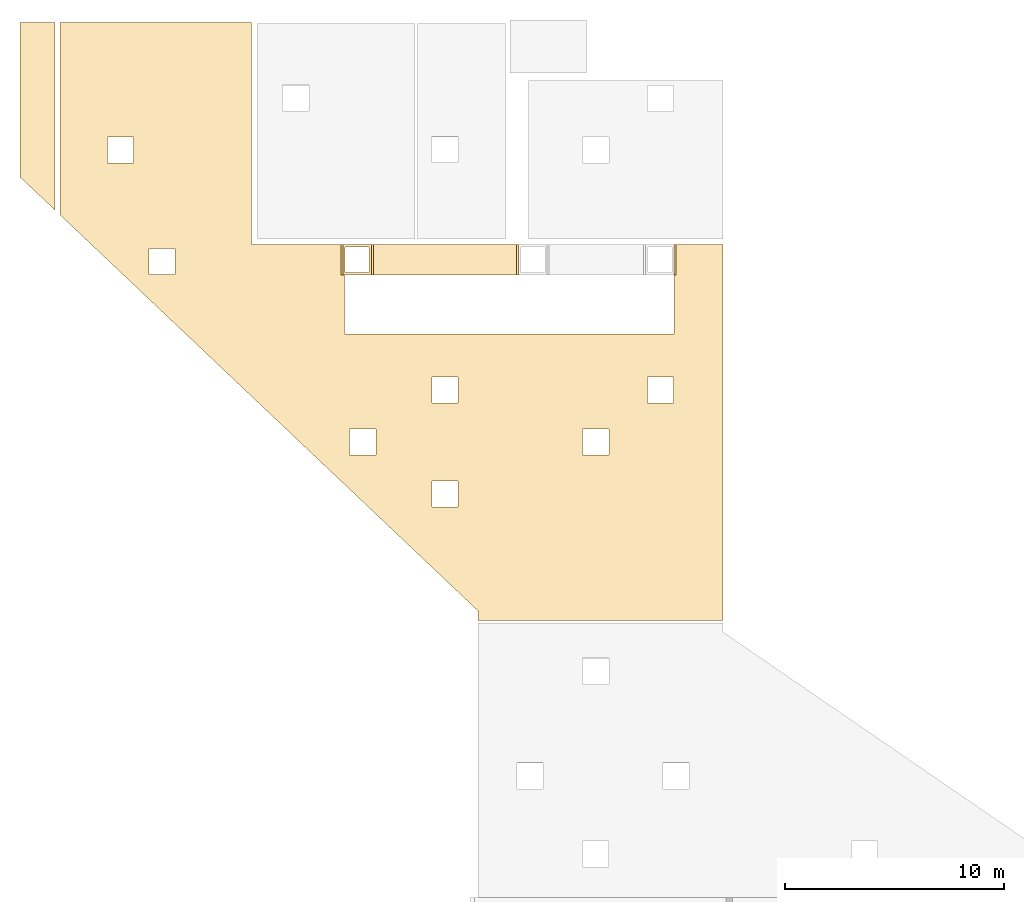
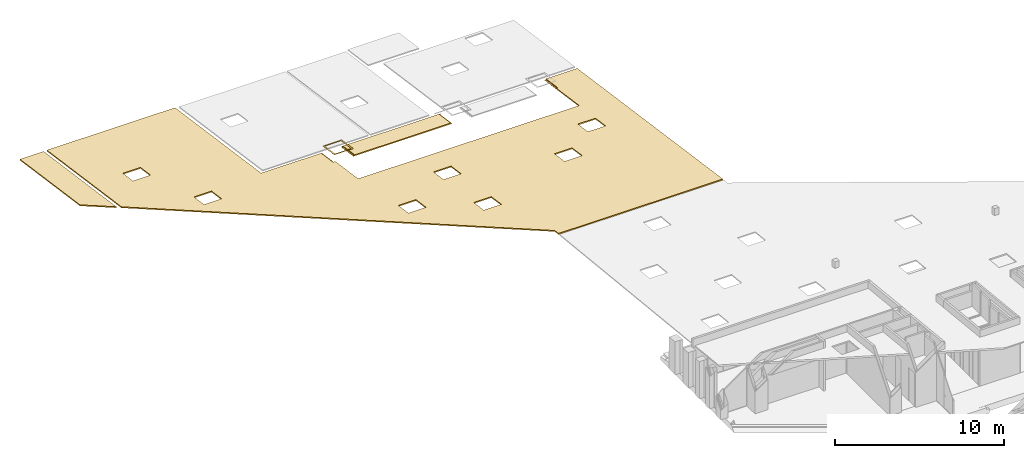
# One storey, part 38 of 43: 4 coverings, 15 openings.
"""IFC2X3 building model written with IfcOpenShell, lengths in millimetres."""

from ifc_helpers import new_model, entity, si_unit, converted_unit, derived_unit, money_unit, direction, frame, origin_with_axes, place, context, subcontext, project, spatial, faceted_brep, material, material_list, type_object, element, save


model = new_model("IFC2X3")

# Units and contexts
model_context = context("Model", 3, precision=0.01, world=origin_with_axes(), true_north=direction((0.0, 1.0)))
body_context = subcontext(model_context, "Body", "Model", "MODEL_VIEW")
ifc_project = project(units=[si_unit("LENGTHUNIT", "METRE", prefix="MILLI"), si_unit("AREAUNIT", "SQUARE_METRE"), si_unit("VOLUMEUNIT", "CUBIC_METRE"), converted_unit("PLANEANGLEUNIT", "DEGREE", entity("IfcPlaneAngleMeasure", 0.0174532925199), si_unit("PLANEANGLEUNIT", "RADIAN"), dimensions=[0, 0, 0, 0, 0, 0, 0]), si_unit("SOLIDANGLEUNIT", "STERADIAN"), money_unit("EUR"), converted_unit("TIMEUNIT", "Year", entity("IfcTimeMeasure", 31556926.0), si_unit("TIMEUNIT", "SECOND"), dimensions=[0, 0, 1, 0, 0, 0, 0]), si_unit("MASSUNIT", "GRAM", prefix="KILO"), si_unit("THERMODYNAMICTEMPERATUREUNIT", "DEGREE_CELSIUS"), si_unit("LUMINOUSINTENSITYUNIT", "LUMEN"), si_unit("ENERGYUNIT", "JOULE", prefix="MEGA"), derived_unit("THERMALCONDUCTANCEUNIT", [(si_unit("POWERUNIT", "WATT"), 1), (si_unit("LENGTHUNIT", "METRE"), -1), (si_unit("THERMODYNAMICTEMPERATUREUNIT", "KELVIN"), -1)]), derived_unit("SPECIFICHEATCAPACITYUNIT", [(si_unit("ENERGYUNIT", "JOULE"), 1), (si_unit("MASSUNIT", "GRAM", prefix="KILO"), -1), (si_unit("THERMODYNAMICTEMPERATUREUNIT", "KELVIN"), -1)]), derived_unit("MASSDENSITYUNIT", [(si_unit("MASSUNIT", "GRAM", prefix="KILO"), 1), (si_unit("VOLUMEUNIT", "CUBIC_METRE"), -1)])], contexts=[model_context])

# Site, building, storey
site_placement = place(None, origin_with_axes())
site = spatial("IfcSite", under=ifc_project, at=site_placement, Name="L.Koidula tn 11b", CompositionType="ELEMENT")
building_placement = place(site_placement, origin_with_axes())
building = spatial("IfcBuilding", under=site, at=building_placement, Name="Rakvere Riigigümnaasium", CompositionType="ELEMENT")
storey_placement = place(building_placement, frame((0.0, 0.0, 6665.0), z_axis=(0.0, 0.0, 1.0), x_axis=(1.0, 0.0, 0.0)))
storey = spatial("IfcBuildingStorey", under=building, at=storey_placement, Name="3.korrus +6,66", CompositionType="ELEMENT", Elevation=6665.0)

# Covering, openings
ifc_material_1 = material(Name="mineraalvill+karkass")
ifc_material_2 = material(Name="SKR-02_Kipsplaat")
ifc_material_list = material_list([ifc_material_1, ifc_material_2])
covering_type_1 = type_object("IfcCoveringType", Name="SA-LV-kips 79", PredefinedType="CEILING")
covering_1_placement = place(storey_placement, frame((16549.8302239, 44100.3882167, 839.388361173), z_axis=(0.0, 0.0, 1.0), x_axis=(1.0, 0.0, 0.0)))
covering_1 = element("IfcCovering", 1, at=covering_1_placement, inside=storey, type_object=covering_type_1, material=ifc_material_list, Name="L-01", PredefinedType="CEILING", context=body_context, shape_type="Brep", body=[
    faceted_brep([(12939.98999, 15850.0664329, -2176.50747019), (12849.1597953, 15850.0664329, -2176.50747019), (12849.1597953, 17230.0664329, -2372.91055466), (12939.98999, 17230.0664329, -2372.91055466), (12939.98999, 17238.7702104, -2374.14928564), (8748.99987109, 17238.7702104, -2374.14928564), (8748.99987109, 27389.9962048, -3818.88268886), (10.0, 27389.9962048, -3818.88268886), (10.0, 18592.4632224, -2566.80833128), (19099.995873, 506.97033096, 7.13847164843), (19099.995873, 51.1218543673, 72.0153171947), (30299.9958143, 51.1218543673, 72.0153171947), (30299.9958143, 17238.7702104, -2374.14928564), (28161.1697672, 17238.7702104, -2374.14928564), (28161.1697672, 15850.205606, -2176.52727746), (28070.1697672, 15850.205606, -2176.52727746), (28070.1697672, 13150.0664329, -1792.2405658), (12999.98999, 13150.0664329, -1792.2405658), (12999.98999, 15849.9991706, -2176.49789734), (12939.98999, 15849.9991706, -2176.49789734), (28050.0838268, 11194.4531757, -1513.91558337), (28050.0838268, 10006.4247864, -1344.83410505), (26850.0838268, 10006.4247864, -1344.83410505), (26850.0838268, 11194.4531757, -1513.91558337), (17004.7805926, 11194.4531757, -1513.91558337), (18204.7805926, 11194.4531757, -1513.91558337), (18204.7805926, 10006.4247864, -1344.83410505), (17004.7805926, 10006.4247864, -1344.83410505), (23886.5417261, 7630.05150351, -1006.62610315), (23886.5417261, 8818.07989277, -1175.70758147), (25086.5417261, 8818.07989277, -1175.70758147), (25086.5417261, 7630.05150351, -1006.62610315), (14443.1271168, 7630.02702053, -1006.6226187), (13243.1271168, 7630.02702053, -1006.6226187), (13243.1271168, 8818.05540979, -1175.70409703), (14443.1271168, 8818.05540979, -1175.70409703), (5272.05634873, 17066.8003394, -2349.67434862), (5272.05634873, 15878.7719502, -2180.59287029), (4072.05634873, 15878.7719502, -2180.59287029), (4072.05634873, 17066.8003394, -2349.67434862), (2175.16799485, 22162.7231391, -3074.93156316), (3375.16799485, 22162.7231391, -3074.93156316), (3375.16799485, 20974.6947498, -2905.85008484), (2175.16799485, 20974.6947498, -2905.85008484), (17004.7805926, 5255.51279603, -668.679200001), (17004.7805926, 6443.54118529, -837.760678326), (18204.7805926, 6443.54118529, -837.760678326), (18204.7805926, 5255.51279603, -668.679200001), (12939.9899903, 15850.0664329, -2243.17254379), (12849.1597953, 15850.0664329, -2243.17254379), (12849.1597953, 17230.0664329, -2439.57562826), (12939.9899903, 17230.0664329, -2439.57562826), (12939.9899903, 17238.7702104, -2440.81435923), (8748.99987114, 17238.7702104, -2440.81435923), (8748.99987114, 27389.9962048, -3885.54776246), (9.99999967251, 27389.9962048, -3885.54776246), (9.99999967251, 18592.4632228, -2633.47340493), (19099.9958728, 506.970330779, -59.5266019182), (19099.9958728, 51.121854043, 5.35024364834), (30299.9958143, 51.121854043, 5.35024364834), (30299.9958143, 17238.7702104, -2440.81435923), (28161.1697672, 17238.7702104, -2440.81435923), (28161.1697672, 15850.205606, -2243.19235105), (28070.1697672, 15850.205606, -2243.19235105), (28070.1697672, 13150.0664333, -1858.90563944), (12999.98999, 13150.0664333, -1858.90563944), (12999.98999, 15849.9991705, -2243.16297093), (12939.9899903, 15849.9991705, -2243.16297093), (28050.0838268, 11185.1536944, -1579.25714478), (28050.0838268, 9997.12530514, -1410.17566646), (26850.0838268, 9997.12530514, -1410.17566646), (26850.0838268, 11185.1536944, -1579.25714478), (17004.7805926, 11185.1536944, -1579.25714478), (18204.7805926, 11185.1536944, -1579.25714478), (18204.7805926, 9997.12530514, -1410.17566646), (17004.7805926, 9997.12530514, -1410.17566646), (23886.5417261, 7620.75202221, -1071.96766456), (23886.5417261, 8808.78041147, -1241.04914288), (25086.5417261, 8808.78041147, -1241.04914288), (25086.5417261, 7620.75202221, -1071.96766456), (13243.1271168, 7620.72753922, -1071.96418011), (14443.1271168, 7620.72753922, -1071.96418011), (13243.1271168, 8808.75592848, -1241.04565844), (14443.1271168, 8808.75592848, -1241.04565844), (5272.05634873, 17057.5008581, -2415.01591002), (5272.05634873, 15869.4724689, -2245.9344317), (4072.05634873, 15869.4724689, -2245.9344317), (4072.05634873, 17057.5008581, -2415.01591002), (2175.16799485, 22153.4236578, -3140.27312457), (3375.16799485, 22153.4236578, -3140.27312457), (3375.16799485, 20965.3952685, -2971.19164625), (2175.16799485, 20965.3952685, -2971.19164625), (17004.7805926, 5246.21331472, -734.02076141), (17004.7805926, 6434.24170398, -903.102239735), (18204.7805926, 6434.24170398, -903.102239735), (18204.7805926, 5246.21331472, -734.02076141)], [[[0, 1, 2, 3, 4, 5, 6, 7, 8, 9, 10, 11, 12, 13, 14, 15, 16, 17, 18, 19], [20, 21, 22, 23], [24, 25, 26, 27], [28, 29, 30, 31], [32, 33, 34, 35], [36, 37, 38, 39], [40, 41, 42, 43], [44, 45, 46, 47]], [[48, 49, 1, 0]], [[50, 2, 1, 49]], [[51, 3, 2, 50]], [[4, 3, 51, 52]], [[5, 4, 52, 53]], [[6, 5, 53, 54]], [[7, 6, 54, 55]], [[8, 7, 55, 56]], [[9, 8, 56, 57]], [[10, 9, 57, 58]], [[11, 10, 58, 59]], [[12, 11, 59, 60]], [[13, 12, 60, 61]], [[13, 61, 62, 14]], [[63, 15, 14, 62]], [[63, 64, 16, 15]], [[17, 16, 64, 65]], [[18, 17, 65, 66]], [[19, 18, 66, 67]], [[67, 48, 0, 19]], [[68, 69, 21, 20]], [[69, 70, 22, 21]], [[70, 71, 23, 22]], [[71, 68, 20, 23]], [[24, 72, 73, 25]], [[25, 73, 74, 26]], [[26, 74, 75, 27]], [[27, 75, 72, 24]], [[29, 28, 76, 77]], [[30, 29, 77, 78]], [[31, 30, 78, 79]], [[28, 31, 79, 76]], [[80, 33, 32, 81]], [[82, 34, 33, 80]], [[83, 35, 34, 82]], [[81, 32, 35, 83]], [[84, 85, 37, 36]], [[85, 86, 38, 37]], [[86, 87, 39, 38]], [[87, 84, 36, 39]], [[40, 88, 89, 41]], [[41, 89, 90, 42]], [[42, 90, 91, 43]], [[43, 91, 88, 40]], [[45, 44, 92, 93]], [[46, 45, 93, 94]], [[47, 46, 94, 95]], [[44, 47, 95, 92]], [[50, 49, 48, 67, 66, 65, 64, 63, 62, 61, 60, 59, 58, 57, 56, 55, 54, 53, 52, 51], [68, 71, 70, 69], [74, 73, 72, 75], [76, 79, 78, 77], [82, 80, 81, 83], [84, 87, 86, 85], [90, 89, 88, 91], [92, 95, 94, 93]]]),
    faceted_brep([(12939.9899903, 15850.0664329, -2243.17254379), (12849.1597953, 15850.0664329, -2243.17254379), (12849.1597953, 17230.0664329, -2439.57562826), (12939.9899903, 17230.0664329, -2439.57562826), (12939.9899903, 17238.7702104, -2440.81435923), (8748.99987114, 17238.7702104, -2440.81435923), (8748.99987114, 27389.9962048, -3885.54776246), (9.99999967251, 27389.9962048, -3885.54776246), (9.99999967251, 18592.4632228, -2633.47340493), (19099.9958728, 506.970330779, -59.5266019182), (19099.9958728, 51.121854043, 5.35024364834), (30299.9958143, 51.121854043, 5.35024364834), (30299.9958143, 17238.7702104, -2440.81435923), (28161.1697672, 17238.7702104, -2440.81435923), (28161.1697672, 15850.205606, -2243.19235105), (28070.1697672, 15850.205606, -2243.19235105), (28070.1697672, 13150.0664333, -1858.90563944), (12999.98999, 13150.0664333, -1858.90563944), (12999.98999, 15849.9991705, -2243.16297093), (12939.9899903, 15849.9991705, -2243.16297093), (28050.0838268, 11185.1536944, -1579.25714478), (28050.0838268, 9997.12530514, -1410.17566646), (26850.0838268, 9997.12530514, -1410.17566646), (26850.0838268, 11185.1536944, -1579.25714478), (17004.7805926, 11185.1536944, -1579.25714478), (18204.7805926, 11185.1536944, -1579.25714478), (18204.7805926, 9997.12530514, -1410.17566646), (17004.7805926, 9997.12530514, -1410.17566646), (23886.5417261, 7620.75202221, -1071.96766456), (23886.5417261, 8808.78041147, -1241.04914288), (25086.5417261, 8808.78041147, -1241.04914288), (25086.5417261, 7620.75202221, -1071.96766456), (14443.1271168, 7620.72753922, -1071.96418011), (13243.1271168, 7620.72753922, -1071.96418011), (13243.1271168, 8808.75592848, -1241.04565844), (14443.1271168, 8808.75592848, -1241.04565844), (5272.05634873, 17057.5008581, -2415.01591002), (5272.05634873, 15869.4724689, -2245.9344317), (4072.05634873, 15869.4724689, -2245.9344317), (4072.05634873, 17057.5008581, -2415.01591002), (2175.16799485, 22153.4236578, -3140.27312457), (3375.16799485, 22153.4236578, -3140.27312457), (3375.16799485, 20965.3952685, -2971.19164625), (2175.16799485, 20965.3952685, -2971.19164625), (17004.7805926, 5246.21331472, -734.02076141), (17004.7805926, 6434.24170398, -903.102239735), (18204.7805926, 6434.24170398, -903.102239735), (18204.7805926, 5246.21331472, -734.02076141), (12939.9899903, 15850.0664329, -2243.2436154), (12849.1597953, 15850.0664329, -2243.2436154), (12849.1597953, 17230.0664329, -2439.64669987), (12939.9899903, 17230.0664329, -2439.64669987), (12939.9899904, 15849.9991705, -2255.78893167), (12939.9899904, 17238.7702104, -2453.44031997), (8748.99987115, 17238.7702104, -2453.44031997), (8748.99987115, 27389.9962048, -3898.17372319), (9.99999961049, 27389.9962048, -3898.17372319), (9.99999961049, 18592.4632229, -2646.09936567), (19099.9958728, 506.970330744, -72.1525626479), (19099.9958728, 51.1218539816, -7.2757170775), (30299.9958143, 51.1218539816, -7.2757170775), (30299.9958143, 17238.7702104, -2453.44031997), (28070.1697672, 17238.7702104, -2453.44031997), (28070.1697672, 17238.7702104, -2440.88543085), (28161.1697672, 17238.7702104, -2440.88543085), (28161.1697672, 15850.205606, -2243.26342267), (28070.1697672, 15850.205606, -2243.26342267), (28070.1697672, 13150.0664333, -1871.53160018), (12999.98999, 13150.0664333, -1871.53160018), (12999.98999, 15849.9991705, -2255.78893167), (28050.0838268, 11183.392429, -1591.63244033), (28050.0838268, 9995.36403977, -1422.55096201), (26850.0838268, 9995.36403977, -1422.55096201), (26850.0838268, 11183.392429, -1591.63244033), (17004.7805926, 11183.392429, -1591.63244033), (18204.7805926, 11183.392429, -1591.63244033), (18204.7805926, 9995.36403977, -1422.55096201), (17004.7805926, 9995.36403977, -1422.55096201), (23886.5417261, 7618.99075683, -1084.34296011), (23886.5417261, 8807.01914609, -1253.42443843), (25086.5417261, 8807.01914609, -1253.42443843), (25086.5417261, 7618.99075683, -1084.34296011), (13243.1271168, 7618.96627385, -1084.33947567), (14443.1271168, 7618.96627385, -1084.33947567), (13243.1271168, 8806.99466311, -1253.42095399), (14443.1271168, 8806.99466311, -1253.42095399), (5272.05634873, 17055.7395928, -2427.39120558), (5272.05634873, 15867.7112035, -2258.30972725), (4072.05634873, 15867.7112035, -2258.30972725), (4072.05634873, 17055.7395928, -2427.39120558), (2175.16799485, 22151.6623924, -3152.64842012), (3375.16799485, 22151.6623924, -3152.64842012), (3375.16799485, 20963.6340032, -2983.5669418), (2175.16799485, 20963.6340032, -2983.5669418), (17004.7805926, 5244.45204934, -746.396056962), (17004.7805926, 6432.4804386, -915.477535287), (18204.7805926, 6432.4804386, -915.477535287), (18204.7805926, 5244.45204934, -746.396056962)], [[[0, 1, 2, 3, 4, 5, 6, 7, 8, 9, 10, 11, 12, 13, 14, 15, 16, 17, 18, 19], [20, 21, 22, 23], [24, 25, 26, 27], [28, 29, 30, 31], [32, 33, 34, 35], [36, 37, 38, 39], [40, 41, 42, 43], [44, 45, 46, 47]], [[48, 49, 1, 0]], [[50, 2, 1, 49]], [[51, 3, 2, 50]], [[51, 48, 0, 19, 52, 53, 4, 3]], [[5, 4, 53, 54]], [[6, 5, 54, 55]], [[7, 6, 55, 56]], [[8, 7, 56, 57]], [[9, 8, 57, 58]], [[10, 9, 58, 59]], [[11, 10, 59, 60]], [[12, 11, 60, 61]], [[12, 61, 62, 63, 64, 13]], [[13, 64, 65, 14]], [[15, 14, 65, 66]], [[67, 16, 15, 66, 63, 62]], [[17, 16, 67, 68]], [[18, 17, 68, 69]], [[19, 18, 69, 52]], [[70, 71, 21, 20]], [[71, 72, 22, 21]], [[72, 73, 23, 22]], [[73, 70, 20, 23]], [[24, 74, 75, 25]], [[25, 75, 76, 26]], [[26, 76, 77, 27]], [[27, 77, 74, 24]], [[29, 28, 78, 79]], [[30, 29, 79, 80]], [[31, 30, 80, 81]], [[28, 31, 81, 78]], [[82, 33, 32, 83]], [[84, 34, 33, 82]], [[85, 35, 34, 84]], [[83, 32, 35, 85]], [[86, 87, 37, 36]], [[87, 88, 38, 37]], [[88, 89, 39, 38]], [[89, 86, 36, 39]], [[40, 90, 91, 41]], [[41, 91, 92, 42]], [[42, 92, 93, 43]], [[43, 93, 90, 40]], [[45, 44, 94, 95]], [[46, 45, 95, 96]], [[47, 46, 96, 97]], [[44, 47, 97, 94]], [[51, 50, 49, 48]], [[54, 53, 52, 69, 68, 67, 62, 61, 60, 59, 58, 57, 56, 55], [70, 73, 72, 71], [76, 75, 74, 77], [78, 81, 80, 79], [84, 82, 83, 85], [86, 89, 88, 87], [92, 91, 90, 93], [94, 97, 96, 95]], [[63, 66, 65, 64]]]),
])
opening_1_placement = place(covering_1_placement, frame((27450.0838268, 11194.4531757, -674.527222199), z_axis=(0.0, 0.0, 1.0), x_axis=(1.0, 0.0, 0.0)))
element("IfcOpeningElement", 2, at=opening_1_placement, cuts=covering_1, Name="Ava ripplaes", context=body_context, shape_type="Brep", body=[
    faceted_brep([(600.0, -1187.88748803, -669.316859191), (-600.0, -1187.88748803, -669.316859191), (-600.0, -1199.2300372, -749.013763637), (600.0, -1199.2300372, -749.013763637), (600.0, 0.140901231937, -838.398337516), (-600.0, 0.140901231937, -838.398337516), (-600.0, -11.201647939, -918.095241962), (600.0, -11.201647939, -918.095241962)], [[[0, 1, 2, 3]], [[0, 4, 5, 1]], [[1, 5, 6, 2]], [[3, 2, 6, 7]], [[4, 0, 3, 7]], [[5, 4, 7, 6]]]),
])
opening_2_placement = place(covering_1_placement, frame((17604.7805926, 11194.4531757, -674.527222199), z_axis=(0.0, 0.0, 1.0), x_axis=(1.0, 0.0, 0.0)))
element("IfcOpeningElement", 3, at=opening_2_placement, cuts=covering_1, Name="Ava ripplaes", context=body_context, shape_type="Brep", body=[
    faceted_brep([(-600.0, -1199.2300372, -749.013763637), (600.0, -1199.2300372, -749.013763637), (600.0, -1187.88748803, -669.316859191), (-600.0, -1187.88748803, -669.316859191), (-600.0, -11.201647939, -918.095241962), (600.0, -11.201647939, -918.095241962), (600.0, 0.140901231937, -838.398337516), (-600.0, 0.140901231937, -838.398337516)], [[[0, 1, 2, 3]], [[0, 4, 5, 1]], [[1, 5, 6, 2]], [[3, 2, 6, 7]], [[4, 0, 3, 7]], [[5, 4, 7, 6]]]),
])
opening_3_placement = place(covering_1_placement, frame((24486.5417261, 8818.07989277, -336.3192203), z_axis=(0.0, 0.0, 1.0), x_axis=(1.0, 0.0, 0.0)))
element("IfcOpeningElement", 4, at=opening_3_placement, cuts=covering_1, Name="Ava ripplaes", context=body_context, shape_type="Brep", body=[
    faceted_brep([(600.0, -1187.88748803, -669.316859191), (-600.0, -1187.88748803, -669.316859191), (-600.0, -1199.2300372, -749.013763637), (600.0, -1199.2300372, -749.013763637), (600.0, 0.140901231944, -838.398337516), (-600.0, 0.140901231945, -838.398337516), (-600.0, -11.201647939, -918.095241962), (600.0, -11.201647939, -918.095241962)], [[[0, 1, 2, 3]], [[0, 4, 5, 1]], [[1, 5, 6, 2]], [[3, 2, 6, 7]], [[4, 0, 3, 7]], [[5, 4, 7, 6]]]),
])
opening_4_placement = place(covering_1_placement, frame((13843.1271168, 8818.05540979, -336.315735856), z_axis=(0.0, 0.0, 1.0), x_axis=(1.0, 0.0, 0.0)))
element("IfcOpeningElement", 5, at=opening_4_placement, cuts=covering_1, Name="Ava ripplaes", context=body_context, shape_type="Brep", body=[
    faceted_brep([(600.0, -1187.88748803, -669.316859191), (-600.0, -1187.88748803, -669.316859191), (-600.0, -1199.2300372, -749.013763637), (600.0, -1199.2300372, -749.013763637), (600.0, 0.140901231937, -838.398337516), (-600.0, 0.140901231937, -838.398337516), (-600.0, -11.201647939, -918.095241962), (600.0, -11.201647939, -918.095241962)], [[[0, 1, 2, 3]], [[0, 4, 5, 1]], [[1, 5, 6, 2]], [[3, 2, 6, 7]], [[4, 0, 3, 7]], [[5, 4, 7, 6]]]),
])
opening_5_placement = place(covering_1_placement, frame((24486.5417261, 14851.5317256, -1169.33490151), z_axis=(0.0, 0.0, 1.0), x_axis=(1.0, 0.0, 0.0)))
element("IfcOpeningElement", 6, at=opening_5_placement, cuts=covering_1, Name="Ava ripplaes", context=body_context, shape_type="Brep", body=[
    faceted_brep([(-600.0, -1199.38594402, -751.106951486), (600.0, -1199.38594402, -751.106951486), (600.0, -1188.18250939, -671.390371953), (-600.0, -1188.18250939, -671.390371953), (-600.0, -11.0642615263, -918.114672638), (600.0, -11.0642615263, -918.114672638), (600.0, 0.139173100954, -838.398093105), (-600.0, 0.139173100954, -838.398093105)], [[[0, 1, 2, 3]], [[0, 4, 5, 1]], [[1, 5, 6, 2]], [[3, 2, 6, 7]], [[4, 0, 3, 7]], [[5, 4, 7, 6]]]),
])
opening_6_placement = place(covering_1_placement, frame((4672.05634873, 17066.8003394, -1510.28598744), z_axis=(0.0, 0.0, 1.0), x_axis=(1.0, 0.0, 0.0)))
element("IfcOpeningElement", 7, at=opening_6_placement, cuts=covering_1, Name="Ava ripplaes", context=body_context, shape_type="Brep", body=[
    faceted_brep([(600.0, -1187.88748803, -669.316859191), (-600.0, -1187.88748803, -669.316859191), (-600.0, -1199.2300372, -749.013763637), (600.0, -1199.2300372, -749.013763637), (600.0, 0.140901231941, -838.398337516), (-600.0, 0.140901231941, -838.398337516), (-600.0, -11.201647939, -918.095241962), (600.0, -11.201647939, -918.095241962)], [[[0, 1, 2, 3]], [[0, 4, 5, 1]], [[1, 5, 6, 2]], [[3, 2, 6, 7]], [[4, 0, 3, 7]], [[5, 4, 7, 6]]]),
])
opening_7_placement = place(covering_1_placement, frame((2775.16799485, 22162.7231391, -2235.54320199), z_axis=(0.0, 0.0, 1.0), x_axis=(1.0, 0.0, 0.0)))
element("IfcOpeningElement", 8, at=opening_7_placement, cuts=covering_1, Name="Ava ripplaes", context=body_context, shape_type="Brep", body=[
    faceted_brep([(-600.0, -1199.2300372, -749.013763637), (600.0, -1199.2300372, -749.013763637), (600.0, -1187.88748803, -669.316859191), (-600.0, -1187.88748803, -669.316859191), (-600.0, -11.201647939, -918.095241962), (600.0, -11.201647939, -918.095241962), (600.0, 0.140901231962, -838.398337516), (-600.0, 0.140901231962, -838.398337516)], [[[0, 1, 2, 3]], [[0, 4, 5, 1]], [[1, 5, 6, 2]], [[3, 2, 6, 7]], [[4, 0, 3, 7]], [[5, 4, 7, 6]]]),
])
opening_8_placement = place(covering_1_placement, frame((17604.7805926, 6443.54118529, 1.62768284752), z_axis=(0.0, 0.0, 1.0), x_axis=(1.0, 0.0, 0.0)))
element("IfcOpeningElement", 9, at=opening_8_placement, cuts=covering_1, Name="Ava ripplaes", context=body_context, shape_type="Brep", body=[
    faceted_brep([(-600.0, -1199.2300372, -749.013763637), (600.0, -1199.2300372, -749.013763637), (600.0, -1187.88748803, -669.316859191), (-600.0, -1187.88748803, -669.316859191), (-600.0, -11.201647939, -918.095241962), (600.0, -11.201647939, -918.095241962), (600.0, 0.140901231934, -838.398337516), (-600.0, 0.140901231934, -838.398337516)], [[[0, 1, 2, 3]], [[0, 4, 5, 1]], [[1, 5, 6, 2]], [[3, 2, 6, 7]], [[4, 0, 3, 7]], [[5, 4, 7, 6]]]),
])

covering_2_placement = place(storey_placement, frame((16550.0000292, 44100.5946522, 839.851083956), z_axis=(0.0, 0.0, 1.0), x_axis=(1.0, 0.0, 0.0)))
covering_2 = element("IfcCovering", 10, at=covering_2_placement, inside=storey, type_object=covering_type_1, material=ifc_material_list, Name="L-01", PredefinedType="CEILING", context=body_context, shape_type="Brep", body=[
    faceted_brep([(14330.98999, 15849.9991706, -2243.16297094), (14239.98999, 15849.9991706, -2243.16297094), (14239.98999, 15849.9991706, -2176.49789734), (14330.98999, 15849.9991706, -2176.49789303), (14239.98999, 17229.8599975, -2439.54624814), (14239.9899896, 17238.7702269, -2440.81436159), (20969.9999617, 17238.7702269, -2440.81436159), (20969.9999619, 17229.8599975, -2439.54624814), (20878.9999619, 17229.8599975, -2439.54624814), (20878.9999619, 15849.8599975, -2243.14315931), (14239.9899896, 15849.8599668, -2243.14315931), (14330.98999, 17229.8599975, -2439.54624814), (14239.98999, 15849.8599671, -2176.47808576), (14239.98999, 17229.8599975, -2372.88117455), (14330.98999, 17229.8599975, -2372.88117023), (20878.9999619, 15849.8599975, -2176.47808576), (20878.9999619, 17229.8599975, -2372.88117455), (20969.9999619, 17229.8599975, -2372.88117455), (20969.9999619, 17238.770227, -2374.149288), (14239.98999, 17238.770227, -2374.149288)], [[[0, 1, 2, 3]], [[4, 5, 6, 7, 8, 9, 10, 1, 0, 11]], [[2, 1, 10, 12]], [[13, 14, 3, 2, 12, 15, 16, 17, 18, 19]], [[3, 14, 11, 0]], [[4, 13, 19, 5]], [[5, 19, 18, 6]], [[18, 17, 7, 6]], [[7, 17, 16, 8]], [[8, 16, 15, 9]], [[10, 9, 15, 12]], [[14, 13, 4, 11]]]),
    faceted_brep([(14239.98999, 15849.9991706, -2243.16297094), (14239.9899896, 15849.8599668, -2243.14315931), (20878.9999619, 15849.8599975, -2243.14315931), (20878.9999619, 17229.8599975, -2439.54624814), (20969.9999619, 17229.8599975, -2439.54624814), (20969.9999617, 17238.7702269, -2440.81436159), (14239.9899896, 17238.7702269, -2440.81436159), (14239.98999, 17229.8599975, -2439.54624814), (14330.98999, 17229.8599975, -2439.54624378), (14330.98999, 15849.9991706, -2243.16296658), (14239.98999, 17229.8599975, -2440.10942265), (14239.9899896, 17238.7702269, -2453.44032232), (14239.9899896, 15849.8599668, -2255.76912004), (14239.98999, 15849.9991706, -2243.72614545), (20969.9999619, 15849.8599975, -2243.70633818), (20878.9999619, 15849.8599975, -2243.70633818), (20969.9999617, 15849.8599668, -2255.76912004), (20878.9999619, 17229.8599975, -2440.10942265), (20969.9999619, 17229.8599975, -2440.10942265), (20969.9999617, 17238.7702269, -2453.44032232), (14330.98999, 17229.8599975, -2440.10942265), (14330.98999, 15849.9991706, -2243.72614545)], [[[0, 1, 2, 3, 4, 5, 6, 7, 8, 9]], [[10, 7, 6, 11, 12, 1, 0, 13]], [[14, 15, 2, 1, 12, 16]], [[17, 3, 2, 15]], [[18, 4, 3, 17]], [[4, 18, 14, 16, 19, 5]], [[11, 6, 5, 19]], [[8, 7, 10, 20]], [[9, 8, 20, 21]], [[13, 0, 9, 21]], [[16, 12, 11, 19]], [[10, 13, 21, 20]], [[18, 17, 15, 14]]]),
])
opening_9_placement = place(covering_2_placement, frame((27449.9999619, 11156.5171078, -648.823678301), z_axis=(0.0, 0.0, 1.0), x_axis=(1.0, 0.0, 0.0)))
element("IfcOpeningElement", 11, at=opening_9_placement, cuts=covering_2, Name="Ava ripplaes", context=body_context, shape_type="Brep", body=[
    faceted_brep([(600.0, -1188.18250939, -671.853094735), (-600.0, -1188.18250939, -671.853094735), (-600.0, -1199.38594402, -751.569674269), (600.0, -1199.38594402, -751.569674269), (600.0, 0.139173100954, -838.860815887), (-600.0, 0.139173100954, -838.860815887), (-600.0, -11.0642615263, -918.577395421), (600.0, -11.0642615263, -918.577395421)], [[[0, 1, 2, 3]], [[0, 4, 5, 1]], [[1, 5, 6, 2]], [[3, 2, 6, 7]], [[4, 0, 3, 7]], [[5, 4, 7, 6]]]),
])
opening_10_placement = place(covering_2_placement, frame((17604.7805926, 11157.5172853, -648.964244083), z_axis=(0.0, 0.0, 1.0), x_axis=(1.0, 0.0, 0.0)))
element("IfcOpeningElement", 12, at=opening_10_placement, cuts=covering_2, Name="Ava ripplaes", context=body_context, shape_type="Brep", body=[
    faceted_brep([(-600.0, -1199.38594402, -751.569674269), (600.0, -1199.38594402, -751.569674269), (600.0, -1188.18250939, -671.853094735), (-600.0, -1188.18250939, -671.853094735), (-600.0, -11.0642615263, -918.577395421), (600.0, -11.0642615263, -918.577395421), (600.0, 0.139173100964, -838.860815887), (-600.0, 0.139173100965, -838.860815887)], [[[0, 1, 2, 3]], [[0, 4, 5, 1]], [[1, 5, 6, 2]], [[3, 2, 6, 7]], [[4, 0, 3, 7]], [[5, 4, 7, 6]]]),
])
opening_11_placement = place(covering_2_placement, frame((13843.1259217, 8780.99263953, -314.965486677), z_axis=(0.0, 0.0, 1.0), x_axis=(1.0, 0.0, 0.0)))
element("IfcOpeningElement", 13, at=opening_11_placement, cuts=covering_2, Name="Ava ripplaes", context=body_context, shape_type="Brep", body=[
    faceted_brep([(600.0, -1188.18250939, -671.853094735), (-600.0, -1188.18250939, -671.853094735), (-600.0, -1199.38594402, -751.569674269), (600.0, -1199.38594402, -751.569674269), (600.0, 0.139173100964, -838.860815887), (-600.0, 0.139173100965, -838.860815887), (-600.0, -11.0642615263, -918.577395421), (600.0, -11.0642615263, -918.577395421)], [[[0, 1, 2, 3]], [[0, 4, 5, 1]], [[1, 5, 6, 2]], [[3, 2, 6, 7]], [[4, 0, 3, 7]], [[5, 4, 7, 6]]]),
])
opening_12_placement = place(covering_2_placement, frame((24486.5417261, 14851.5317256, -1168.12405399), z_axis=(0.0, 0.0, 1.0), x_axis=(1.0, 0.0, 0.0)))
element("IfcOpeningElement", 14, at=opening_12_placement, cuts=covering_2, Name="Ava ripplaes", context=body_context, shape_type="Brep", body=[
    faceted_brep([(-600.0, -1199.38594402, -751.569674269), (600.0, -1199.38594402, -751.569674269), (600.0, -1188.18250939, -671.853094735), (-600.0, -1188.18250939, -671.853094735), (-600.0, -11.0642615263, -918.577395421), (600.0, -11.0642615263, -918.577395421), (600.0, 0.139173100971, -838.860815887), (-600.0, 0.139173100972, -838.860815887)], [[[0, 1, 2, 3]], [[0, 4, 5, 1]], [[1, 5, 6, 2]], [[3, 2, 6, 7]], [[4, 0, 3, 7]], [[5, 4, 7, 6]]]),
])
opening_13_placement = place(covering_2_placement, frame((4671.97250036, 17019.1035453, -1472.75646974), z_axis=(0.0, 0.0, 1.0), x_axis=(1.0, 0.0, 0.0)))
element("IfcOpeningElement", 15, at=opening_13_placement, cuts=covering_2, Name="Ava ripplaes", context=body_context, shape_type="Brep", body=[
    faceted_brep([(600.0, -1188.18250939, -671.853094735), (-600.0, -1188.18250939, -671.853094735), (-600.0, -1199.38594402, -751.569674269), (600.0, -1199.38594402, -751.569674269), (600.0, 0.139173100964, -838.860815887), (-600.0, 0.139173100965, -838.860815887), (-600.0, -11.0642615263, -918.577395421), (600.0, -11.0642615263, -918.577395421)], [[[0, 1, 2, 3]], [[0, 4, 5, 1]], [[1, 5, 6, 2]], [[3, 2, 6, 7]], [[4, 0, 3, 7]], [[5, 4, 7, 6]]]),
])
opening_14_placement = place(covering_2_placement, frame((2774.99818953, 22154.515484, -2194.49155014), z_axis=(0.0, 0.0, 1.0), x_axis=(1.0, 0.0, 0.0)))
element("IfcOpeningElement", 16, at=opening_14_placement, cuts=covering_2, Name="Ava ripplaes", context=body_context, shape_type="Brep", body=[
    faceted_brep([(-600.0, -1199.38594402, -751.569674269), (600.0, -1199.38594402, -751.569674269), (600.0, -1188.18250939, -671.853094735), (-600.0, -1188.18250939, -671.853094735), (-600.0, -11.0642615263, -918.577395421), (600.0, -11.0642615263, -918.577395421), (600.0, 0.139173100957, -838.860815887), (-600.0, 0.139173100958, -838.860815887)], [[[0, 1, 2, 3]], [[0, 4, 5, 1]], [[1, 5, 6, 2]], [[3, 2, 6, 7]], [[4, 0, 3, 7]], [[5, 4, 7, 6]]]),
])

# Covering
covering_3_placement = place(storey_placement, frame((16550.0000292, 44100.5946522, 820.834515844), z_axis=(0.0, 0.0, 1.0), x_axis=(1.0, 0.0, 0.0)))
element("IfcCovering", 17, at=covering_3_placement, inside=storey, type_object=covering_type_1, material=ifc_material_list, Name="L-01", PredefinedType="CEILING", context=body_context, shape_type="Brep", body=[
    faceted_brep([(-210.0, 18802.2099179, -2596.65970661), (-210.0, 27389.9962048, -3818.88268886), (-1819.96561648, 27389.9962048, -3818.88268886), (-1819.96562351, 20320.6335325, -2812.7633888), (-209.999999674, 18802.2099176, -2663.32478015), (-209.999999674, 27389.996205, -3885.54776249), (-1819.96561644, 27389.996205, -3885.54776249), (-1819.96562383, 20320.6335324, -2879.42846239)], [[[0, 1, 2, 3]], [[0, 4, 5, 1]], [[1, 5, 6, 2]], [[2, 6, 7, 3]], [[3, 7, 4, 0]], [[4, 7, 6, 5]]]),
    faceted_brep([(-1819.96562383, 20320.6335324, -2879.42846239), (-1819.96562389, 20320.6335324, -2892.05442312), (-209.999999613, 18802.2099175, -2675.95074088), (-209.999999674, 18802.2099176, -2663.32478015), (-1819.96561644, 27389.996205, -3885.54776249), (-1819.96561644, 27389.996205, -3898.17372323), (-209.999999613, 27389.996205, -3898.17372323), (-209.999999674, 27389.996205, -3885.54776249)], [[[0, 1, 2, 3]], [[4, 5, 1, 0]], [[1, 5, 6, 2]], [[3, 2, 6, 7]], [[3, 7, 4, 0]], [[7, 6, 5, 4]]]),
])

# Covering, opening
ifc_material_3 = material(Name="Teras")
covering_type_2 = type_object("IfcCoveringType", Name="Teras 5", PredefinedType="NOTDEFINED")
covering_4_placement = place(storey_placement, frame((29585.9900192, 59950.5938227, -855.343534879), z_axis=(0.0, 0.0, 1.0), x_axis=(1.0, 0.0, 0.0)))
covering_4 = element("IfcCovering", 18, at=covering_4_placement, inside=storey, type_object=covering_type_2, material=ifc_material_3, Name="Katuseakna terasraam", PredefinedType="NOTDEFINED", context=body_context, shape_type="Brep", body=[
    faceted_brep([(-96.0000003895, -0.139173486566, 0.0198074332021), (-96.0000003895, 1379.86082712, -196.383277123), (1204.00000036, 1379.86082712, -196.383277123), (1204.00000036, -0.139173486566, 0.0198074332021), (4.0, 99.0680734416, -14.0994746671), (1104.0, 99.0680734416, -14.0994746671), (1104.0, 1281.15632076, -182.335545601), (4.0, 1281.15632076, -182.335545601), (-96.0, 1379.8608269, -191.332892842), (-96.0, -0.139173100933, 5.0701916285), (1204.0, 1379.8608269, -191.332892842), (1204.0, -0.139173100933, 5.0701916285), (4.0, 99.7725795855, -9.1493564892), (1104.0, 99.7725795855, -9.1493564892), (1104.0, 1281.8608269, -177.385427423), (4.0, 1281.8608269, -177.385427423)], [[[0, 1, 2, 3], [4, 5, 6, 7]], [[8, 1, 0, 9]], [[10, 2, 1, 8]], [[11, 3, 2, 10]], [[9, 0, 3, 11]], [[12, 13, 5, 4]], [[13, 14, 6, 5]], [[14, 15, 7, 6]], [[15, 12, 4, 7]], [[11, 10, 8, 9], [12, 15, 14, 13]]]),
])
opening_15_placement = place(covering_4_placement, frame((554.0, 1281.8608269, -1032.7289623), z_axis=(0.0, 0.0, 1.0), x_axis=(1.0, 0.0, 0.0)))
element("IfcOpeningElement", 19, at=opening_15_placement, cuts=covering_4, Name="Ava ripplaes", context=body_context, shape_type="Brep", body=[
    faceted_brep([(550.0, -1181.94734608, 1024.56962947), (-550.0, -1181.94734608, 1024.56962947), (-550.0, -1182.93365471, 1017.63946387), (550.0, -1182.93365471, 1017.63946387), (550.0, 0.140901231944, 856.333558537), (-550.0, 0.140901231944, 856.333558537), (-550.0, -0.845407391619, 849.403392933), (550.0, -0.845407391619, 849.403392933)], [[[0, 1, 2, 3]], [[0, 4, 5, 1]], [[1, 5, 6, 2]], [[3, 2, 6, 7]], [[4, 0, 3, 7]], [[5, 4, 7, 6]]]),
])

save(model, "model.ifc")
